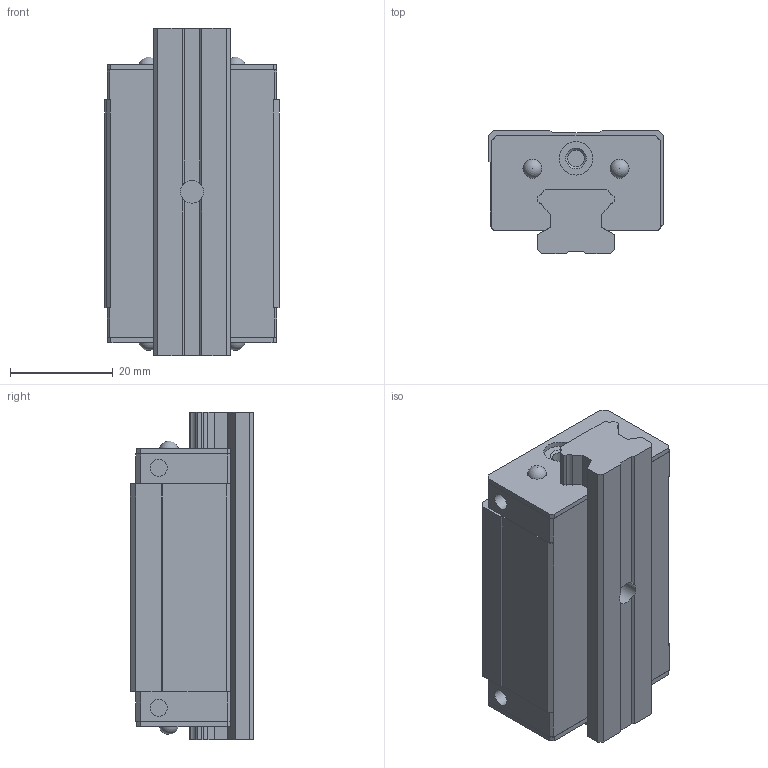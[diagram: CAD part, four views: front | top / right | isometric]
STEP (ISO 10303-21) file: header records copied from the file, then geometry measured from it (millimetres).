
FILE_DESCRIPTION( ( 'STEP AP214' ), '1' );
FILE_NAME( 'C:/Users/mimi4/OneDrive/Desktop/BSQ賅筐葭/MCS/MCS(SR-V_SR-T)/MCS15N.stp', '2019-10-01T02:39:26', ( ' ' ), ( ' ' ), 'XStep 1.0', 'VISICAD', ' ' );
FILE_SCHEMA( ( 'automotive_design' ) );
Length unit declared in the file: metre
Products named in the file (4): 1; 2; 3; 4
Bounding box: 34 x 24 x 63.9 mm (x, y, z)
Volume: 38544.3 mm3; surface area: 14984.4 mm2
Topology: 4 solids, 4 shells, 194 faces, 522 edges, 346 vertices
Faces by surface type: plane 144, cylinder 36, cone 10, sphere 4
Full cylindrical faces by diameter (mm): 3.242 x6, 3.3 x4, 4 x4, 4.5 x1, 6.5 x2, 7.5 x1
Entity records: 7372 total; most frequent: CARTESIAN_POINT 1008, DIRECTION 958, ORIENTED_EDGE 946, EDGE_CURVE 473, LINE 384, VECTOR 384, VERTEX_POINT 337, AXIS2_PLACEMENT_3D 287
